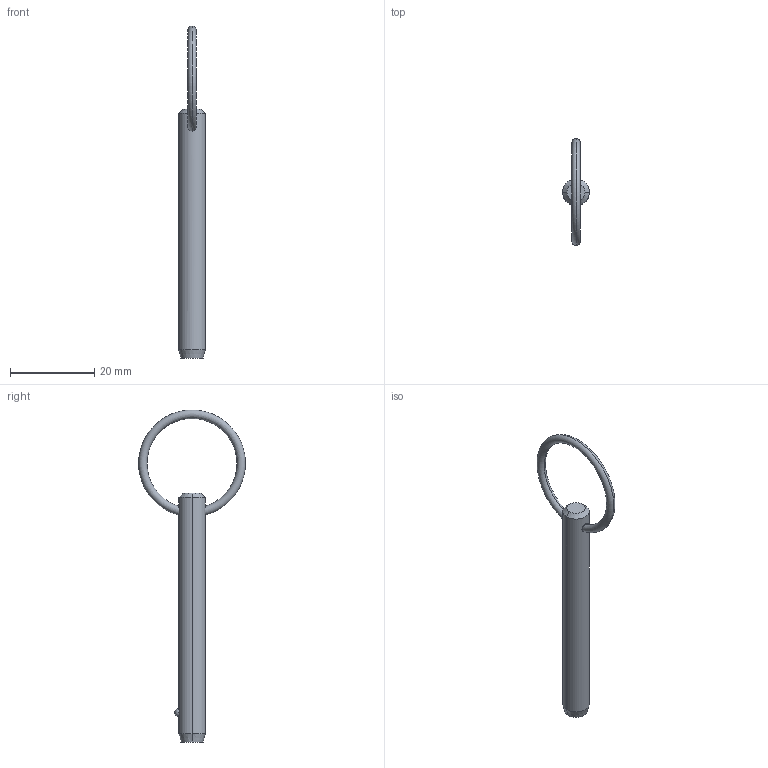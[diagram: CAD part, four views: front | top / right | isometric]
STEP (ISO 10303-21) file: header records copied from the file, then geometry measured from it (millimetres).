
FILE_DESCRIPTION (( 'STEP AP203' ), '1' );
FILE_NAME ('P1250.025-180.step', '2019-07-29T19:41:37', ( '' ), ( '' ), 'SwSTEP 2.0', 'SolidWorks 2017', '' );
FILE_SCHEMA (( 'CONFIG_CONTROL_DESIGN' ));
Length unit declared in the file: millimetre
Products named in the file (1): P1250.025-180
Bounding box: 6.35 x 25.38 x 79.02 mm (x, y, z)
Volume: 2068.5 mm3; surface area: 1638.4 mm2
Topology: 1 solids, 1 shells, 12 faces, 28 edges, 17 vertices
Faces by surface type: cone 4, torus 2, sphere 2, cylinder 2, plane 2
Entity records: 481 total; most frequent: CARTESIAN_POINT 148, DIRECTION 56, ORIENTED_EDGE 48, AXIS2_PLACEMENT_3D 25, EDGE_CURVE 24, EDGE_LOOP 15, VERTEX_POINT 15, ADVANCED_FACE 12
